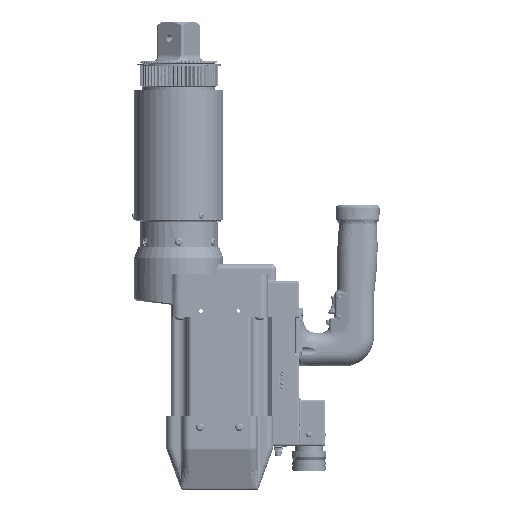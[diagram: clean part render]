
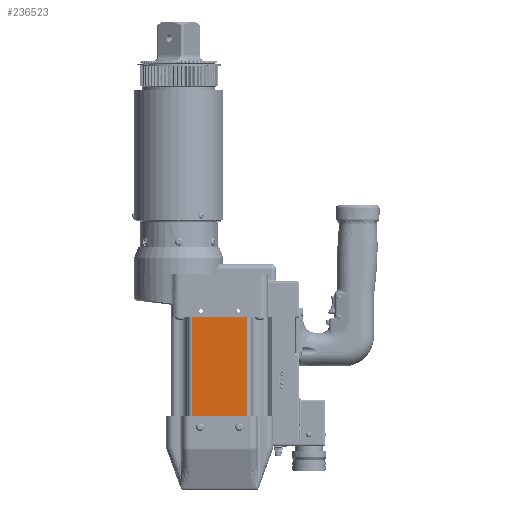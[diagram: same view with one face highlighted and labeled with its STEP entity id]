
A CAD part, left-side view. The second image highlights one B-rep face of the part: STEP entity #236523.
In plain terms, the highlighted planar face has unit normal (-1, 0, 0).
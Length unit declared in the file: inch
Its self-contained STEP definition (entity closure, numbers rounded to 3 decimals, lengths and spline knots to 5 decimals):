
#40641 = AXIS2_PLACEMENT_3D ( 'NONE', #168340, #128598, #256445 ) ;
#55090 = ORIENTED_EDGE ( 'NONE', *, *, #114343, .F. ) ;
#61033 = CARTESIAN_POINT ( 'NONE',  ( -2.2045, 1.27, -11.54144 ) ) ;
#72686 = VERTEX_POINT ( 'NONE', #247435 ) ;
#76536 = CARTESIAN_POINT ( 'NONE',  ( -2.2045, -1.27, -11.54144 ) ) ;
#79736 = DIRECTION ( 'NONE',  ( 0., 1., 0. ) ) ;
#85636 = ORIENTED_EDGE ( 'NONE', *, *, #175586, .T. ) ;
#109827 = EDGE_CURVE ( 'NONE', #311336, #72686, #398743, .T. ) ;
#111151 = LINE ( 'NONE', #305716, #331930 ) ;
#114343 = EDGE_CURVE ( 'NONE', #191188, #338159, #148911, .T. ) ;
#120701 = CARTESIAN_POINT ( 'NONE',  ( -2.2045, -1.27, -6.73644 ) ) ;
#120732 = EDGE_CURVE ( 'NONE', #311336, #191188, #111151, .T. ) ;
#128598 = DIRECTION ( 'NONE',  ( 1., 0., 0. ) ) ;
#148911 = LINE ( 'NONE', #188598, #231201 ) ;
#168340 = CARTESIAN_POINT ( 'NONE',  ( -2.2045, -1.27, -11.54144 ) ) ;
#175586 = EDGE_CURVE ( 'NONE', #72686, #338159, #373952, .T. ) ;
#188598 = CARTESIAN_POINT ( 'NONE',  ( -2.2045, 1.27, -11.54144 ) ) ;
#191188 = VERTEX_POINT ( 'NONE', #61033 ) ;
#193588 = PLANE ( 'NONE',  #40641 ) ;
#202173 = ORIENTED_EDGE ( 'NONE', *, *, #109827, .T. ) ;
#231201 = VECTOR ( 'NONE', #345434, 39.37008 ) ;
#236523 = ADVANCED_FACE ( 'NONE', ( #291802 ), #193588, .F. ) ;
#247435 = CARTESIAN_POINT ( 'NONE',  ( -2.2045, -1.27, -6.73644 ) ) ;
#248511 = DIRECTION ( 'NONE',  ( 0., 1., 0. ) ) ;
#256445 = DIRECTION ( 'NONE',  ( 0., 0., -1. ) ) ;
#261608 = EDGE_LOOP ( 'NONE', ( #85636, #55090, #288820, #202173 ) ) ;
#288820 = ORIENTED_EDGE ( 'NONE', *, *, #120732, .F. ) ;
#291802 = FACE_OUTER_BOUND ( 'NONE', #261608, .T. ) ;
#305716 = CARTESIAN_POINT ( 'NONE',  ( -2.2045, -1.27, -11.54144 ) ) ;
#311336 = VERTEX_POINT ( 'NONE', #390444 ) ;
#331930 = VECTOR ( 'NONE', #79736, 39.37008 ) ;
#338159 = VERTEX_POINT ( 'NONE', #412626 ) ;
#345434 = DIRECTION ( 'NONE',  ( 0., 0., 1. ) ) ;
#373952 = LINE ( 'NONE', #120701, #386251 ) ;
#375437 = VECTOR ( 'NONE', #394674, 39.37008 ) ;
#386251 = VECTOR ( 'NONE', #248511, 39.37008 ) ;
#390444 = CARTESIAN_POINT ( 'NONE',  ( -2.2045, -1.27, -11.54144 ) ) ;
#394674 = DIRECTION ( 'NONE',  ( 0., 0., 1. ) ) ;
#398743 = LINE ( 'NONE', #76536, #375437 ) ;
#412626 = CARTESIAN_POINT ( 'NONE',  ( -2.2045, 1.27, -6.73644 ) ) ;
